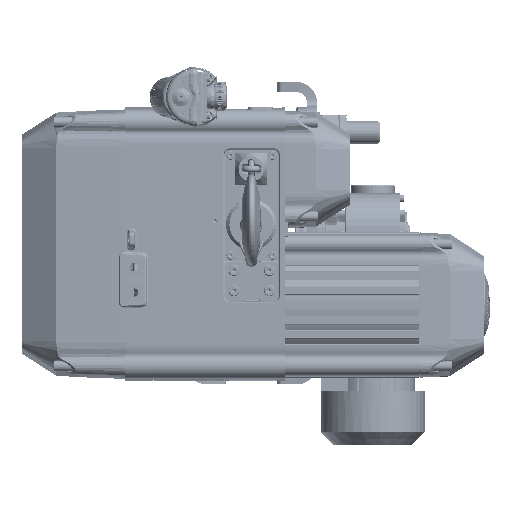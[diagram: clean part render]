
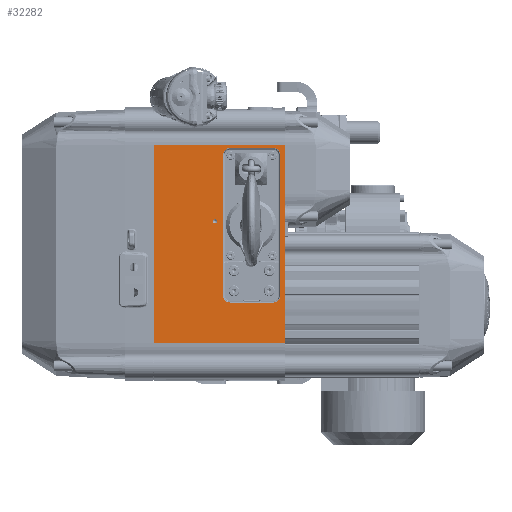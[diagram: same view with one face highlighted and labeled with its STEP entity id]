
A CAD part, front view. The second image highlights one B-rep face of the part: STEP entity #32282.
In plain terms, the highlighted planar face has unit normal (0, -1, 0).
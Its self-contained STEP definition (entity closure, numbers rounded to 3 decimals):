
#2276 = VERTEX_POINT ( 'NONE', #198402 ) ;
#30222 = CARTESIAN_POINT ( 'NONE',  ( -157.5, -90.5, 190.5 ) ) ;
#32282 = ADVANCED_FACE ( 'NONE', ( #196986, #86872, #834848 ), #851498, .F. ) ;
#36643 = VERTEX_POINT ( 'NONE', #794732 ) ;
#37549 = EDGE_CURVE ( 'NONE', #36643, #110829, #368027, .T. ) ;
#43548 = CARTESIAN_POINT ( 'NONE',  ( -15.5, -90.5, 179. ) ) ;
#49417 = LINE ( 'NONE', #606921, #181740 ) ;
#52622 = DIRECTION ( 'NONE',  ( -1., 0., 0. ) ) ;
#84495 = DIRECTION ( 'NONE',  ( 0., 0., 1. ) ) ;
#85411 = EDGE_CURVE ( 'NONE', #215836, #36643, #645242, .T. ) ;
#86872 = FACE_BOUND ( 'NONE', #152417, .T. ) ;
#105003 = EDGE_CURVE ( 'NONE', #820214, #385297, #167863, .T. ) ;
#110829 = VERTEX_POINT ( 'NONE', #837194 ) ;
#117549 = VECTOR ( 'NONE', #565356, 1000. ) ;
#118296 = CARTESIAN_POINT ( 'NONE',  ( -67.5, -90.5, 11. ) ) ;
#123920 = ORIENTED_EDGE ( 'NONE', *, *, #906366, .T. ) ;
#132892 = VERTEX_POINT ( 'NONE', #572922 ) ;
#135635 = DIRECTION ( 'NONE',  ( 0., 0., 1. ) ) ;
#152417 = EDGE_LOOP ( 'NONE', ( #809174, #213391, #724469, #327935, #644335, #566415, #517952, #880756 ) ) ;
#154615 = LINE ( 'NONE', #711833, #605564 ) ;
#161790 = CARTESIAN_POINT ( 'NONE',  ( -2., -90.5, -45.5 ) ) ;
#167863 = LINE ( 'NONE', #556972, #222571 ) ;
#170104 = CARTESIAN_POINT ( 'NONE',  ( -7.534, -90.5, 179. ) ) ;
#173219 = ORIENTED_EDGE ( 'NONE', *, *, #319658, .F. ) ;
#176348 = DIRECTION ( 'NONE',  ( -1., 0., 0. ) ) ;
#181740 = VECTOR ( 'NONE', #677545, 1000. ) ;
#190590 = LINE ( 'NONE', #610654, #872543 ) ;
#196986 = FACE_BOUND ( 'NONE', #437343, .T. ) ;
#198402 = CARTESIAN_POINT ( 'NONE',  ( -67.5, -90.5, 186.966 ) ) ;
#213391 = ORIENTED_EDGE ( 'NONE', *, *, #813809, .T. ) ;
#214672 = CARTESIAN_POINT ( 'NONE',  ( -7.534, -90.5, -45.5 ) ) ;
#215836 = VERTEX_POINT ( 'NONE', #886347 ) ;
#222571 = VECTOR ( 'NONE', #135635, 1000. ) ;
#247089 = DIRECTION ( 'NONE',  ( 0., 1., 0. ) ) ;
#249470 = DIRECTION ( 'NONE',  ( 0., 1., 0. ) ) ;
#250192 = EDGE_CURVE ( 'NONE', #675765, #374614, #702666, .T. ) ;
#297533 = CIRCLE ( 'NONE', #366026, 7.966 ) ;
#303038 = AXIS2_PLACEMENT_3D ( 'NONE', #43548, #249470, #52622 ) ;
#309722 = CIRCLE ( 'NONE', #545321, 7.966 ) ;
#313941 = CARTESIAN_POINT ( 'NONE',  ( -85.125, -90.5, 100. ) ) ;
#319658 = EDGE_CURVE ( 'NONE', #132892, #365392, #154615, .T. ) ;
#324362 = DIRECTION ( 'NONE',  ( -1., 0., 0. ) ) ;
#327935 = ORIENTED_EDGE ( 'NONE', *, *, #37549, .T. ) ;
#329009 = DIRECTION ( 'NONE',  ( 1., 0., 0. ) ) ;
#334194 = EDGE_CURVE ( 'NONE', #2276, #675765, #49417, .T. ) ;
#340859 = CARTESIAN_POINT ( 'NONE',  ( -158.25, -90.5, 3.034 ) ) ;
#356586 = DIRECTION ( 'NONE',  ( 0., 1., 0. ) ) ;
#360180 = EDGE_CURVE ( 'NONE', #385297, #2276, #297533, .T. ) ;
#362629 = DIRECTION ( 'NONE',  ( -1., 0., 0. ) ) ;
#363093 = ORIENTED_EDGE ( 'NONE', *, *, #517659, .F. ) ;
#365392 = VERTEX_POINT ( 'NONE', #30222 ) ;
#366026 = AXIS2_PLACEMENT_3D ( 'NONE', #410021, #247089, #176348 ) ;
#368027 = LINE ( 'NONE', #340859, #422668 ) ;
#374614 = VERTEX_POINT ( 'NONE', #170104 ) ;
#378054 = DIRECTION ( 'NONE',  ( 0., 1., 0. ) ) ;
#385297 = VERTEX_POINT ( 'NONE', #701800 ) ;
#400370 = VECTOR ( 'NONE', #520491, 1000. ) ;
#410021 = CARTESIAN_POINT ( 'NONE',  ( -67.5, -90.5, 179. ) ) ;
#414596 = DIRECTION ( 'NONE',  ( -1., 0., 0. ) ) ;
#421100 = EDGE_CURVE ( 'NONE', #708246, #716808, #620303, .T. ) ;
#422668 = VECTOR ( 'NONE', #414596, 1000. ) ;
#437343 = EDGE_LOOP ( 'NONE', ( #363093 ) ) ;
#449664 = CARTESIAN_POINT ( 'NONE',  ( -2., -90.5, -45.5 ) ) ;
#463265 = ORIENTED_EDGE ( 'NONE', *, *, #421100, .F. ) ;
#481043 = DIRECTION ( 'NONE',  ( 1., 0., 0. ) ) ;
#504200 = CARTESIAN_POINT ( 'NONE',  ( -158.25, -90.5, -45.5 ) ) ;
#511511 = VERTEX_POINT ( 'NONE', #513849 ) ;
#513849 = CARTESIAN_POINT ( 'NONE',  ( -82.625, -90.5, 100. ) ) ;
#517659 = EDGE_CURVE ( 'NONE', #511511, #511511, #639076, .T. ) ;
#517952 = ORIENTED_EDGE ( 'NONE', *, *, #360180, .T. ) ;
#520491 = DIRECTION ( 'NONE',  ( 0., 0., -1. ) ) ;
#545321 = AXIS2_PLACEMENT_3D ( 'NONE', #118296, #822293, #324362 ) ;
#548785 = CARTESIAN_POINT ( 'NONE',  ( -158.25, -90.5, 190.5 ) ) ;
#556972 = CARTESIAN_POINT ( 'NONE',  ( -75.466, -90.5, -45.5 ) ) ;
#565356 = DIRECTION ( 'NONE',  ( 0., 0., -1. ) ) ;
#566415 = ORIENTED_EDGE ( 'NONE', *, *, #105003, .T. ) ;
#572922 = CARTESIAN_POINT ( 'NONE',  ( -157.5, -90.5, -45.5 ) ) ;
#605564 = VECTOR ( 'NONE', #84495, 1000. ) ;
#606921 = CARTESIAN_POINT ( 'NONE',  ( -158.25, -90.5, 186.966 ) ) ;
#610654 = CARTESIAN_POINT ( 'NONE',  ( -158.25, -90.5, -45.5 ) ) ;
#616692 = DIRECTION ( 'NONE',  ( 1., 0., 0. ) ) ;
#620303 = LINE ( 'NONE', #449664, #400370 ) ;
#639076 = CIRCLE ( 'NONE', #739922, 2.5 ) ;
#644335 = ORIENTED_EDGE ( 'NONE', *, *, #806795, .T. ) ;
#645242 = CIRCLE ( 'NONE', #823023, 7.966 ) ;
#675765 = VERTEX_POINT ( 'NONE', #859442 ) ;
#677545 = DIRECTION ( 'NONE',  ( 1., 0., 0. ) ) ;
#701800 = CARTESIAN_POINT ( 'NONE',  ( -75.466, -90.5, 179. ) ) ;
#702666 = CIRCLE ( 'NONE', #303038, 7.966 ) ;
#708086 = CARTESIAN_POINT ( 'NONE',  ( -75.466, -90.5, 11. ) ) ;
#708246 = VERTEX_POINT ( 'NONE', #728350 ) ;
#711833 = CARTESIAN_POINT ( 'NONE',  ( -157.5, -90.5, -45.5 ) ) ;
#716808 = VERTEX_POINT ( 'NONE', #161790 ) ;
#724469 = ORIENTED_EDGE ( 'NONE', *, *, #85411, .T. ) ;
#728350 = CARTESIAN_POINT ( 'NONE',  ( -2., -90.5, 190.5 ) ) ;
#739922 = AXIS2_PLACEMENT_3D ( 'NONE', #313941, #885432, #329009 ) ;
#747945 = LINE ( 'NONE', #548785, #770039 ) ;
#755434 = LINE ( 'NONE', #214672, #117549 ) ;
#762748 = ORIENTED_EDGE ( 'NONE', *, *, #897924, .F. ) ;
#770039 = VECTOR ( 'NONE', #481043, 1000. ) ;
#794732 = CARTESIAN_POINT ( 'NONE',  ( -15.5, -90.5, 3.034 ) ) ;
#799302 = CARTESIAN_POINT ( 'NONE',  ( -15.5, -90.5, 11. ) ) ;
#806795 = EDGE_CURVE ( 'NONE', #110829, #820214, #309722, .T. ) ;
#809174 = ORIENTED_EDGE ( 'NONE', *, *, #250192, .T. ) ;
#813809 = EDGE_CURVE ( 'NONE', #374614, #215836, #755434, .T. ) ;
#820214 = VERTEX_POINT ( 'NONE', #708086 ) ;
#822293 = DIRECTION ( 'NONE',  ( 0., 1., 0. ) ) ;
#823023 = AXIS2_PLACEMENT_3D ( 'NONE', #799302, #378054, #869886 ) ;
#834848 = FACE_OUTER_BOUND ( 'NONE', #836903, .T. ) ;
#836903 = EDGE_LOOP ( 'NONE', ( #173219, #123920, #463265, #762748 ) ) ;
#837194 = CARTESIAN_POINT ( 'NONE',  ( -67.5, -90.5, 3.034 ) ) ;
#851498 = PLANE ( 'NONE',  #896742 ) ;
#859442 = CARTESIAN_POINT ( 'NONE',  ( -15.5, -90.5, 186.966 ) ) ;
#869886 = DIRECTION ( 'NONE',  ( -1., 0., 0. ) ) ;
#872543 = VECTOR ( 'NONE', #616692, 1000. ) ;
#880756 = ORIENTED_EDGE ( 'NONE', *, *, #334194, .T. ) ;
#885432 = DIRECTION ( 'NONE',  ( 0., -1., 0. ) ) ;
#886347 = CARTESIAN_POINT ( 'NONE',  ( -7.534, -90.5, 11. ) ) ;
#896742 = AXIS2_PLACEMENT_3D ( 'NONE', #504200, #356586, #362629 ) ;
#897924 = EDGE_CURVE ( 'NONE', #365392, #708246, #747945, .T. ) ;
#906366 = EDGE_CURVE ( 'NONE', #132892, #716808, #190590, .T. ) ;
